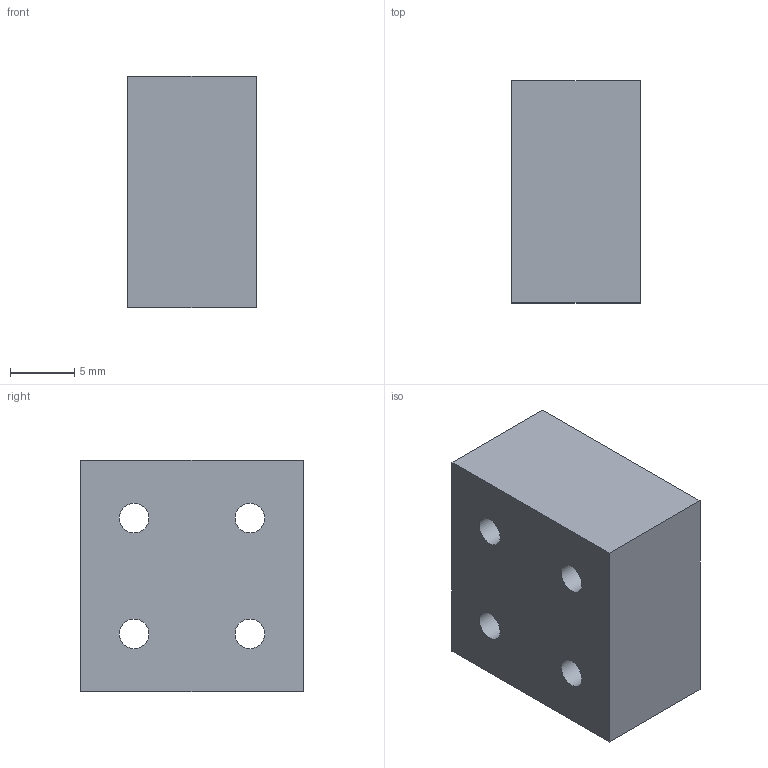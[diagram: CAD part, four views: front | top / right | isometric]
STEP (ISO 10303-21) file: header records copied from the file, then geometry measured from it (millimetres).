
FILE_DESCRIPTION(('FreeCAD Model'),'2;1');
FILE_NAME('Open CASCADE Shape Model','2026-11-08T20:38:38',('FreeCAD'),( 'FreeCAD'),'Open CASCADE STEP processor 7.8','FreeCAD','Unknown');
FILE_SCHEMA(('AUTOMOTIVE_DESIGN { 1 0 10303 214 1 1 1 1 }'));
Length unit declared in the file: millimetre
Products named in the file (1): Open CASCADE STEP translator 7.8 3
Bounding box: 10 x 17.3 x 18 mm (x, y, z)
Volume: 2947.8 mm3; surface area: 1584.6 mm2
Topology: 1 solids, 1 shells, 10 faces, 24 edges, 16 vertices
Faces by surface type: plane 6, cylinder 4
Full cylindrical faces by diameter (mm): 2.3 x4
Entity records: 322 total; most frequent: DIRECTION 54, CARTESIAN_POINT 51, ORIENTED_EDGE 48, EDGE_CURVE 24, AXIS2_PLACEMENT_3D 19, FACE_BOUND 18, EDGE_LOOP 18, VERTEX_POINT 16
